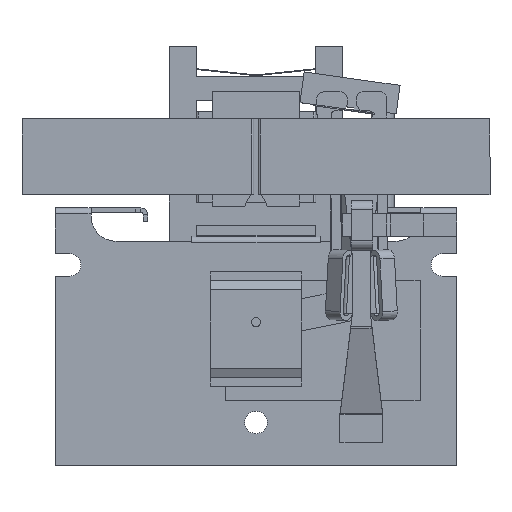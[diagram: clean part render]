
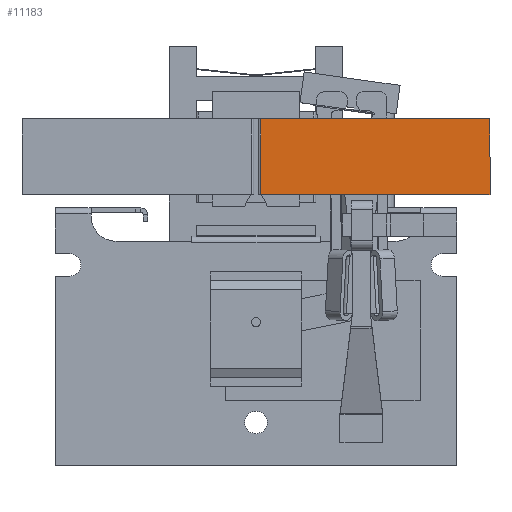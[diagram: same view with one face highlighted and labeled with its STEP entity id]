
A CAD part, top view. The second image highlights one B-rep face of the part: STEP entity #11183.
In plain terms, the highlighted planar face has unit normal (0, 0, 1).
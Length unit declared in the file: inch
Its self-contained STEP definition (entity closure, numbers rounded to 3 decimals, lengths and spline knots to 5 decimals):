
#283 = ORIENTED_EDGE ( 'NONE', *, *, #6258, .T. ) ;
#2623 = LINE ( 'NONE', #12977, #18608 ) ;
#4235 = CARTESIAN_POINT ( 'NONE',  ( 0.02, 0.886, 0.1845 ) ) ;
#4282 = CARTESIAN_POINT ( 'NONE',  ( 1.02, 0.886, 0.1845 ) ) ;
#4287 = CARTESIAN_POINT ( 'NONE',  ( 0.02, 0.556, 0.1845 ) ) ;
#4857 = PLANE ( 'NONE',  #17841 ) ;
#5149 = VECTOR ( 'NONE', #11532, 39.37008 ) ;
#5471 = EDGE_CURVE ( 'NONE', #10329, #17817, #5935, .T. ) ;
#5880 = DIRECTION ( 'NONE',  ( -1., 0., 0. ) ) ;
#5935 = LINE ( 'NONE', #4282, #5149 ) ;
#6258 = EDGE_CURVE ( 'NONE', #13971, #17817, #9989, .T. ) ;
#7095 = ORIENTED_EDGE ( 'NONE', *, *, #5471, .F. ) ;
#7197 = VECTOR ( 'NONE', #9564, 39.37008 ) ;
#7713 = EDGE_CURVE ( 'NONE', #13676, #13971, #2623, .T. ) ;
#8097 = CARTESIAN_POINT ( 'NONE',  ( 0.02, 0.886, 0.1845 ) ) ;
#9564 = DIRECTION ( 'NONE',  ( 1., 0., 0. ) ) ;
#9989 = LINE ( 'NONE', #4287, #16304 ) ;
#10020 = DIRECTION ( 'NONE',  ( 0., 0., -1. ) ) ;
#10024 = CARTESIAN_POINT ( 'NONE',  ( 0.02, 0.886, 0.1845 ) ) ;
#10041 = CARTESIAN_POINT ( 'NONE',  ( 1.02, 0.886, 0.1845 ) ) ;
#10329 = VERTEX_POINT ( 'NONE', #10041 ) ;
#11183 = ADVANCED_FACE ( 'NONE', ( #12210 ), #4857, .F. ) ;
#11532 = DIRECTION ( 'NONE',  ( 0., -1., 0. ) ) ;
#11821 = ORIENTED_EDGE ( 'NONE', *, *, #15430, .F. ) ;
#12210 = FACE_OUTER_BOUND ( 'NONE', #18844, .T. ) ;
#12977 = CARTESIAN_POINT ( 'NONE',  ( 0.02, 0.886, 0.1845 ) ) ;
#13676 = VERTEX_POINT ( 'NONE', #10024 ) ;
#13971 = VERTEX_POINT ( 'NONE', #17197 ) ;
#14647 = ORIENTED_EDGE ( 'NONE', *, *, #7713, .T. ) ;
#15275 = LINE ( 'NONE', #8097, #7197 ) ;
#15430 = EDGE_CURVE ( 'NONE', #13676, #10329, #15275, .T. ) ;
#15994 = DIRECTION ( 'NONE',  ( 0., -1., 0. ) ) ;
#16304 = VECTOR ( 'NONE', #18074, 39.37008 ) ;
#17197 = CARTESIAN_POINT ( 'NONE',  ( 0.02, 0.556, 0.1845 ) ) ;
#17817 = VERTEX_POINT ( 'NONE', #18672 ) ;
#17841 = AXIS2_PLACEMENT_3D ( 'NONE', #4235, #10020, #5880 ) ;
#18074 = DIRECTION ( 'NONE',  ( 1., 0., 0. ) ) ;
#18608 = VECTOR ( 'NONE', #15994, 39.37008 ) ;
#18672 = CARTESIAN_POINT ( 'NONE',  ( 1.02, 0.556, 0.1845 ) ) ;
#18844 = EDGE_LOOP ( 'NONE', ( #283, #7095, #11821, #14647 ) ) ;
